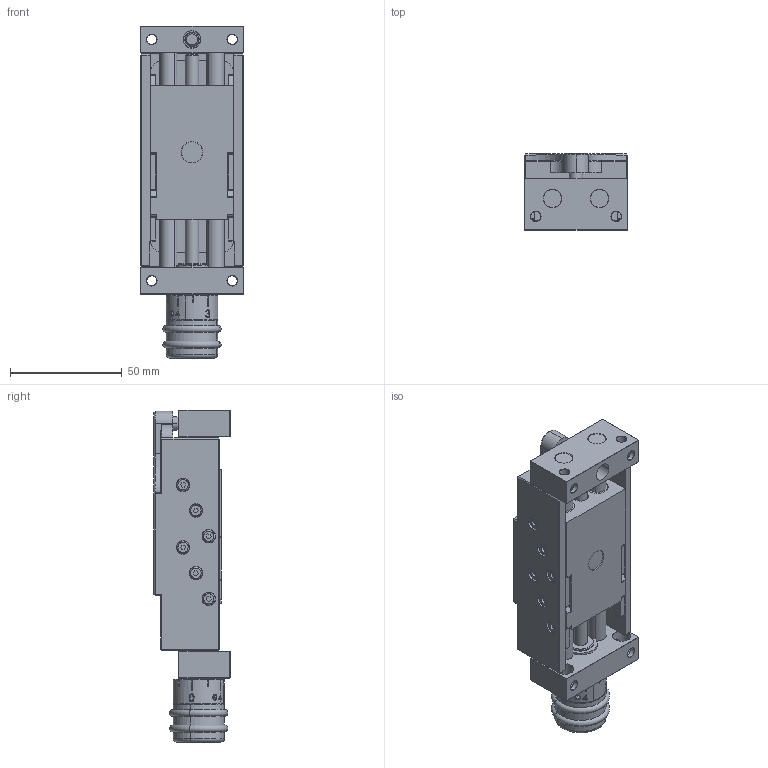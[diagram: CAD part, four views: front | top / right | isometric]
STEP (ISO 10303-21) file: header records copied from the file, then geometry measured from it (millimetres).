
FILE_DESCRIPTION (( 'STEP AP203' ), '1' );
FILE_NAME ('HT08-SK-Hubtisch.STEP', '2016-01-15T16:31:28', ( '' ), ( '' ), 'SwSTEP 2.0', 'SolidWorks 2014', '' );
FILE_SCHEMA (( 'CONFIG_CONTROL_DESIGN' ));
Length unit declared in the file: millimetre
Products named in the file (4): HT08-000-02-Schlitten-komplett; HT08-000-01-Festteil-SK; HT08-000-03-Hubplatte-komplett; HT08-SK-Hubtisch
Assembly tree (3 placements, depth 2):
  HT08-SK-Hubtisch
    HT08-000-01-Festteil-SK
    HT08-000-02-Schlitten-komplett
    HT08-000-03-Hubplatte-komplett
Bounding box: 46 x 34.03 x 148.55 mm (x, y, z)
Volume: 126889.9 mm3; surface area: 59228.3 mm2
Topology: 3 solids, 18 shells, 1136 faces, 2692 edges, 1703 vertices
Faces by surface type: plane 464, cylinder 393, cone 183, torus 53, bspline 41, sphere 2
Entity records: 39978 total; most frequent: CARTESIAN_POINT 12890, DIRECTION 5782, ORIENTED_EDGE 5340, EDGE_CURVE 2670, AXIS2_PLACEMENT_3D 2239, VERTEX_POINT 1703, EDGE_LOOP 1339, LINE 1304
